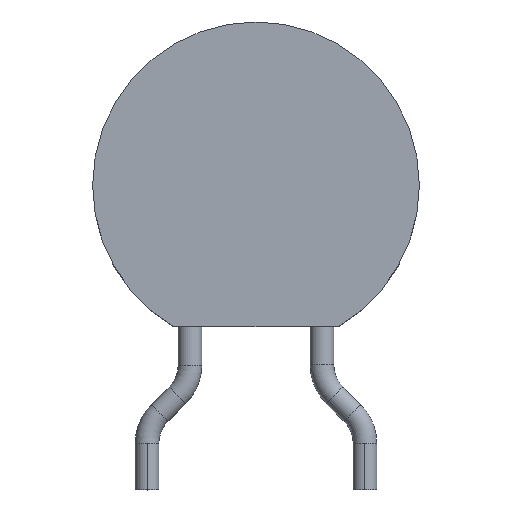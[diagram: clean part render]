
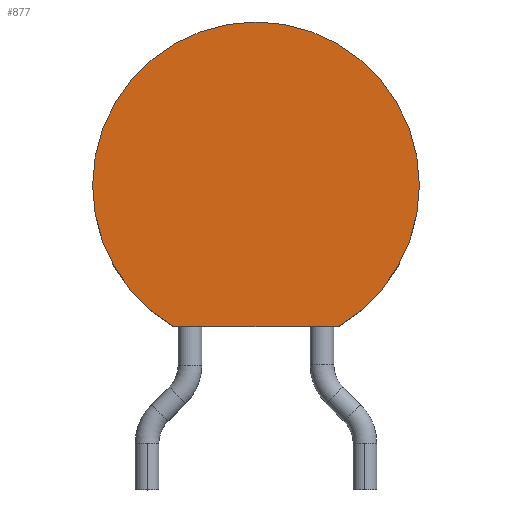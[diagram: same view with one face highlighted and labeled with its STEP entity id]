
A CAD part, top view. The second image highlights one B-rep face of the part: STEP entity #877.
In plain terms, the highlighted planar face has unit normal (0, 0, 1).
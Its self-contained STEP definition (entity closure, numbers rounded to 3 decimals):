
#736 = CARTESIAN_POINT ( 'NONE',  ( 3.81, 6.1, 1.905 ) ) ;
#737 = VERTEX_POINT ( 'NONE', #736 ) ;
#738 = CARTESIAN_POINT ( 'NONE',  ( -3.81, 6.1, 1.905 ) ) ;
#739 = VERTEX_POINT ( 'NONE', #738 ) ;
#740 = CARTESIAN_POINT ( 'NONE',  ( 0., 6.1, 1.905 ) ) ;
#741 = DIRECTION ( 'NONE',  ( 0., 0., 1. ) ) ;
#742 = DIRECTION ( 'NONE',  ( -1., 0., 0. ) ) ;
#743 = AXIS2_PLACEMENT_3D ( 'NONE', #740, #741, #742 ) ;
#744 = CIRCLE ( 'NONE', #743, 3.81) ;
#745 = EDGE_CURVE ( 'NONE', #737, #739, #744, .T. ) ;
#778 = CARTESIAN_POINT ( 'NONE',  ( -1.915, 2.806, 1.905 ) ) ;
#779 = VERTEX_POINT ( 'NONE', #778 ) ;
#780 = CARTESIAN_POINT ( 'NONE',  ( 0., 6.1, 1.905 ) ) ;
#781 = DIRECTION ( 'NONE',  ( 0., 0., 1. ) ) ;
#782 = DIRECTION ( 'NONE',  ( -1., 0., 0. ) ) ;
#783 = AXIS2_PLACEMENT_3D ( 'NONE', #780, #781, #782 ) ;
#784 = CIRCLE ( 'NONE', #783, 3.81) ;
#785 = EDGE_CURVE ( 'NONE', #739, #779, #784, .T. ) ;
#812 = CARTESIAN_POINT ( 'NONE',  ( 1.915, 2.806, 1.905 ) ) ;
#813 = VERTEX_POINT ( 'NONE', #812 ) ;
#814 = CARTESIAN_POINT ( 'NONE',  ( 0., 6.1, 1.905 ) ) ;
#815 = DIRECTION ( 'NONE',  ( 0., 0., 1. ) ) ;
#816 = DIRECTION ( 'NONE',  ( -1., 0., 0. ) ) ;
#817 = AXIS2_PLACEMENT_3D ( 'NONE', #814, #815, #816 ) ;
#818 = CIRCLE ( 'NONE', #817, 3.81) ;
#819 = EDGE_CURVE ( 'NONE', #813, #737, #818, .T. ) ;
#851 = CARTESIAN_POINT ( 'NONE',  ( -1.915, 2.806, 1.905 ) ) ;
#852 = DIRECTION ( 'NONE',  ( 1., 0., 0. ) ) ;
#853 = VECTOR ( 'NONE', #852, 1000. ) ;
#854 = LINE ( 'NONE', #851, #853 ) ;
#855 = EDGE_CURVE ( 'NONE', #779, #813, #854, .T. ) ;
#866 = ORIENTED_EDGE ( 'NONE', *, *, #819, .T. ) ;
#867 = ORIENTED_EDGE ( 'NONE', *, *, #745, .T. ) ;
#868 = ORIENTED_EDGE ( 'NONE', *, *, #785, .T. ) ;
#869 = ORIENTED_EDGE ( 'NONE', *, *, #855, .T. ) ;
#870 = EDGE_LOOP ( 'NONE', ( #866, #867, #868, #869 ) ) ;
#871 = FACE_OUTER_BOUND ( 'NONE', #870, .T. ) ;
#872 = CARTESIAN_POINT ( 'NONE',  ( 0., 6.1, 1.905 ) ) ;
#873 = DIRECTION ( 'NONE',  ( 0., 0., -1. ) ) ;
#874 = DIRECTION ( 'NONE',  ( -1., 0., 0. ) ) ;
#875 = AXIS2_PLACEMENT_3D ( 'NONE', #872, #873, #874 ) ;
#876 = PLANE ( 'NONE', #875 ) ;
#877 = ADVANCED_FACE ( 'NONE', ( #871 ), #876, .F. ) ;
